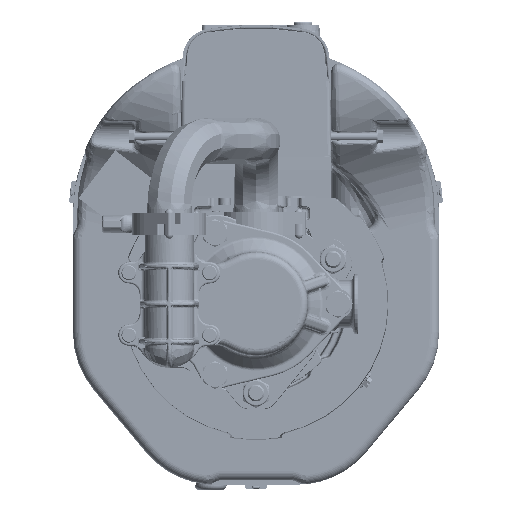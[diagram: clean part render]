
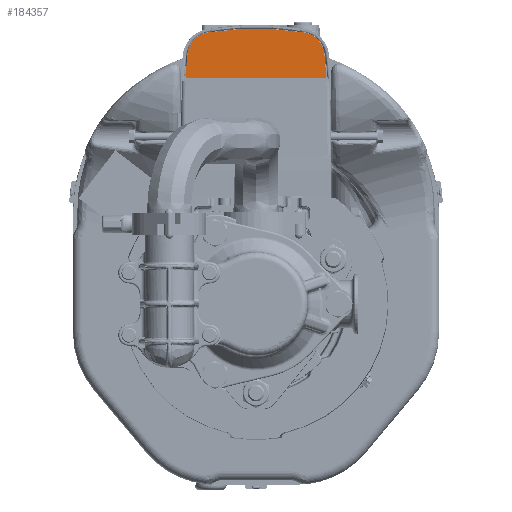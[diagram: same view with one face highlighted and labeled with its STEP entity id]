
A CAD part, front view. The second image highlights one B-rep face of the part: STEP entity #184357.
In plain terms, the highlighted planar face has unit normal (0, -1, 0).
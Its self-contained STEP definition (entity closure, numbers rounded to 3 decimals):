
#182210=DIRECTION('',(-1.,0.,0.));
#182211=VECTOR('',#182210,4.644);
#182212=CARTESIAN_POINT('',(2.321,-5.499,7.489));
#182213=LINE('',#182212,#182211);
#182214=CARTESIAN_POINT('',(-2.323,-5.499,7.489));
#182215=CARTESIAN_POINT('',(-2.324,-5.499,
7.489));
#182216=CARTESIAN_POINT('',(-2.326,-5.499,
7.49));
#182217=CARTESIAN_POINT('',(-2.328,-5.499,
7.491));
#182218=CARTESIAN_POINT('',(-2.329,-5.499,
7.493));
#182219=CARTESIAN_POINT('',(-2.329,-5.499,
7.494));
#182221=DIRECTION('',(-0.017,0.,1.));
#182222=VECTOR('',#182221,0.105);
#182223=CARTESIAN_POINT('',(-2.329,-5.499,
7.494));
#182224=LINE('',#182223,#182222);
#182225=DIRECTION('',(-0.017,0.,-1.));
#182226=VECTOR('',#182225,0.105);
#182227=CARTESIAN_POINT('',(2.328,-5.499,
7.599));
#182228=LINE('',#182227,#182226);
#182229=CARTESIAN_POINT('',(2.326,-5.499,
7.494));
#182230=CARTESIAN_POINT('',(2.326,-5.499,
7.493));
#182231=CARTESIAN_POINT('',(2.325,-5.499,
7.491));
#182232=CARTESIAN_POINT('',(2.323,-5.499,
7.49));
#182233=CARTESIAN_POINT('',(2.322,-5.499,
7.489));
#182234=CARTESIAN_POINT('',(2.321,-5.499,7.489));
#183859=DIRECTION('',(-0.087,0.,0.996));
#183860=VECTOR('',#183859,0.704);
#183861=CARTESIAN_POINT('',(2.328,-5.499,
7.599));
#183862=LINE('',#183861,#183860);
#183863=CARTESIAN_POINT('',(1.489,-5.499,
8.232));
#183864=DIRECTION('',(0.,-1.,0.));
#183865=DIRECTION('',(0.996,0.,0.087));
#183866=AXIS2_PLACEMENT_3D('',#183863,#183864,#183865);
#183878=CARTESIAN_POINT('',(-0.001,-5.499,
-0.856));
#183879=DIRECTION('',(0.,-1.,0.));
#183880=DIRECTION('',(0.162,0.,0.987));
#183881=AXIS2_PLACEMENT_3D('',#183878,#183879,#183880);
#183893=CARTESIAN_POINT('',(-1.492,-5.499,
8.232));
#183894=DIRECTION('',(0.,-1.,0.));
#183895=DIRECTION('',(-0.162,0.,0.987));
#183896=AXIS2_PLACEMENT_3D('',#183893,#183894,#183895);
#183917=DIRECTION('',(-0.087,0.,-0.996));
#183918=VECTOR('',#183917,0.704);
#183919=CARTESIAN_POINT('',(-2.269,-5.499,
8.3));
#183920=LINE('',#183919,#183918);
#184193=CARTESIAN_POINT('',(2.328,-5.499,
7.599));
#184194=CARTESIAN_POINT('',(2.266,-5.499,
8.3));
#184195=VERTEX_POINT('',#184193);
#184196=VERTEX_POINT('',#184194);
#184197=CARTESIAN_POINT('',(1.615,-5.499,
9.002));
#184198=VERTEX_POINT('',#184197);
#184201=CARTESIAN_POINT('',(-1.618,-5.499,
9.002));
#184202=VERTEX_POINT('',#184201);
#184205=CARTESIAN_POINT('',(-2.269,-5.499,
8.3));
#184206=VERTEX_POINT('',#184205);
#184211=CARTESIAN_POINT('',(-2.33,-5.499,
7.599));
#184212=VERTEX_POINT('',#184211);
#184266=CARTESIAN_POINT('',(-2.323,-5.499,7.489));
#184267=CARTESIAN_POINT('',(2.321,-5.499,7.489));
#184268=VERTEX_POINT('',#184266);
#184269=VERTEX_POINT('',#184267);
#184270=VERTEX_POINT('',#182219);
#184271=CARTESIAN_POINT('',(2.326,-5.499,
7.494));
#184272=VERTEX_POINT('',#184271);
#184330=CARTESIAN_POINT('',(-0.001,-5.499,7.474));
#184331=DIRECTION('',(0.,1.,0.));
#184332=DIRECTION('',(1.,0.,0.));
#184333=AXIS2_PLACEMENT_3D('',#184330,#184331,#184332);
#184334=PLANE('',#184333);
#184336=ORIENTED_EDGE('',*,*,#184335,.T.);
#184338=ORIENTED_EDGE('',*,*,#184337,.T.);
#184340=ORIENTED_EDGE('',*,*,#184339,.T.);
#184342=ORIENTED_EDGE('',*,*,#184341,.F.);
#184344=ORIENTED_EDGE('',*,*,#184343,.F.);
#184346=ORIENTED_EDGE('',*,*,#184345,.F.);
#184348=ORIENTED_EDGE('',*,*,#184347,.F.);
#184350=ORIENTED_EDGE('',*,*,#184349,.F.);
#184352=ORIENTED_EDGE('',*,*,#184351,.T.);
#184354=ORIENTED_EDGE('',*,*,#184353,.T.);
#184355=EDGE_LOOP('',(#184336,#184338,#184340,#184342,#184344,#184346,#184348,
#184350,#184352,#184354));
#184356=FACE_OUTER_BOUND('',#184355,.F.);
#184357=ADVANCED_FACE('',(#184356),#184334,.F.);
#182220=B_SPLINE_CURVE_WITH_KNOTS('',3,(#182214,#182215,#182216,#182217,#182218,
#182219),.UNSPECIFIED.,.F.,.F.,(4,1,1,4),(0.,0.333,
0.667,1.),.UNSPECIFIED.);
#182235=B_SPLINE_CURVE_WITH_KNOTS('',3,(#182229,#182230,#182231,#182232,#182233,
#182234),.UNSPECIFIED.,.F.,.F.,(4,1,1,4),(0.,0.333,
0.667,1.),.UNSPECIFIED.);
#183867=CIRCLE('',#183866,0.78);
#183882=CIRCLE('',#183881,9.99);
#183897=CIRCLE('',#183896,0.78);
#184335=EDGE_CURVE('',#184269,#184268,#182213,.T.);
#184337=EDGE_CURVE('',#184268,#184270,#182220,.T.);
#184339=EDGE_CURVE('',#184270,#184212,#182224,.T.);
#184341=EDGE_CURVE('',#184206,#184212,#183920,.T.);
#184343=EDGE_CURVE('',#184202,#184206,#183897,.T.);
#184345=EDGE_CURVE('',#184198,#184202,#183882,.T.);
#184347=EDGE_CURVE('',#184196,#184198,#183867,.T.);
#184349=EDGE_CURVE('',#184195,#184196,#183862,.T.);
#184351=EDGE_CURVE('',#184195,#184272,#182228,.T.);
#184353=EDGE_CURVE('',#184272,#184269,#182235,.T.);
